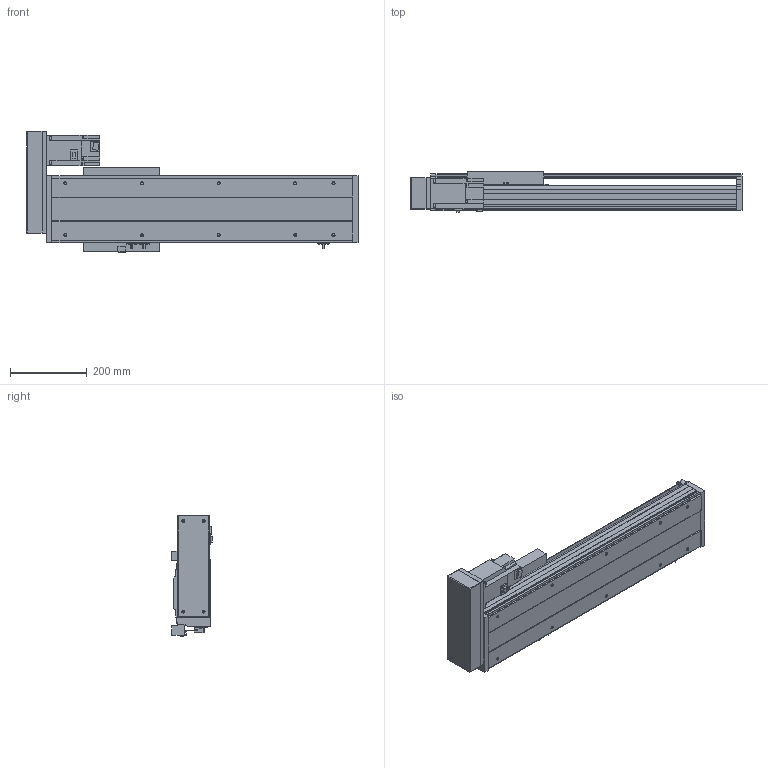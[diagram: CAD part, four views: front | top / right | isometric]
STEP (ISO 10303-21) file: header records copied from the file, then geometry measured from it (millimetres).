
FILE_DESCRIPTION( ( 'STEP AP214' ), '1' );
FILE_NAME( 'x:/temp/worker_27/temp/exporttempdir_6708_441_JbWYT/format_0/PSS200-L10-S450-BL-T75-C1-N(0).stp', '2022-06-06T02:49:53', ( 'License CC BY-ND 4.0' ), ( 'CADENAS' ), ' ', 'PARTsolutions', ' ' );
FILE_SCHEMA( ( 'AUTOMOTIVE_DESIGN { 1 0 10303 214 1 1 1 1 }' ) );
Length unit declared in the file: millimetre
Products named in the file (8): PSS200-L10-S450-BL-T75-C1-N(0); _PSS200-S450-BL-C1-N_body; _PSS200-N_Q; _PSS200-BL-C1-N_sl; _PSS200-N_sensor; _PSS200BL-N_h; _T75-p1; _PSS200-S450-BL-N_S
Assembly tree (9 placements, depth 2):
  PSS200-L10-S450-BL-T75-C1-N(0)
    _PSS200-S450-BL-C1-N_body
    _PSS200-N_Q
    _PSS200-BL-C1-N_sl
    _PSS200-N_sensor  x3
    _PSS200BL-N_h
    _T75-p1
    _PSS200-S450-BL-N_S
Bounding box: 866.85 x 105.3 x 317.86 mm (x, y, z)
Volume: 6969992.6 mm3; surface area: 1469128.4 mm2
Topology: 9 solids, 9 shells, 600 faces, 1597 edges, 1054 vertices
Faces by surface type: plane 466, cylinder 112, cone 18, sphere 4
Full cylindrical faces by diameter (mm): 4 x2, 4.5 x4, 6 x7, 6.647 x14, 7.4 x4, 8 x8, 10 x6, 25 x1, 40 x1, 67 x1
Entity records: 20930 total; most frequent: CARTESIAN_POINT 2859, DIRECTION 2752, ORIENTED_EDGE 2726, EDGE_CURVE 1363, LINE 1090, VECTOR 1090, VERTEX_POINT 938, AXIS2_PLACEMENT_3D 831
